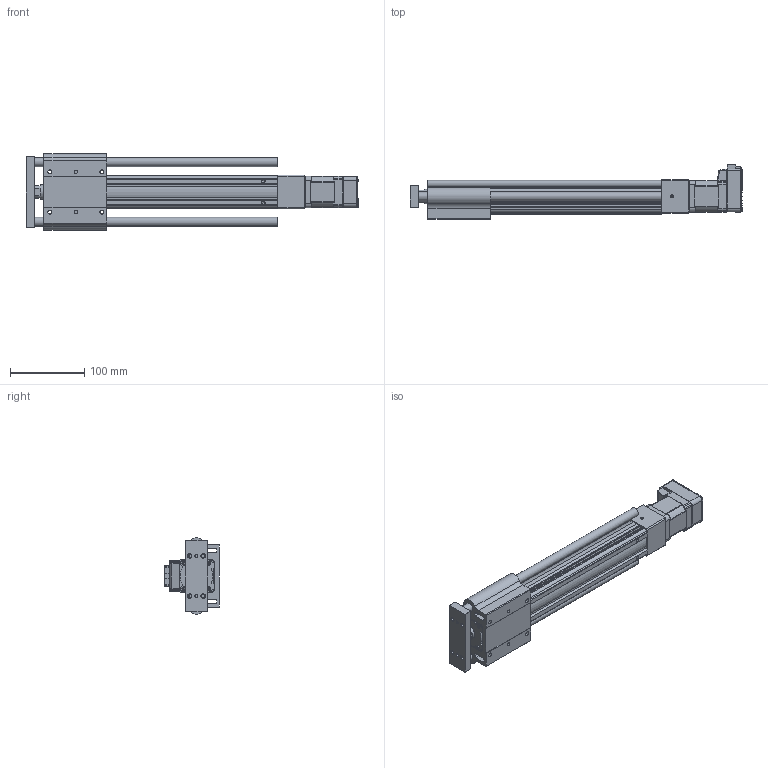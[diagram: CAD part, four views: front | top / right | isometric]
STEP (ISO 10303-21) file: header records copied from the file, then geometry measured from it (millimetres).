
FILE_DESCRIPTION (( 'STEP AP214' ), '1' );
FILE_NAME ('LEYG3(+)-25MDNM1□-200-17L.STEP', '2023-04-10T08:21:42', ( '' ), ( '' ), 'SwSTEP 2.0', 'SolidWorks 2019', '' );
FILE_SCHEMA (( 'AUTOMOTIVE_DESIGN' ));
Length unit declared in the file: millimetre
Products named in the file (6): LEYG3(+)-25MDNM1□-200-17L; LEYG3(+)-25MNM1?_ROD_200; LEYG3(+)-25MNM1□_ATTACH_200; LEYG3(+)-25□DNM1_MOTOR Flange; CM3(+)-17L50A; LEYG3(+)-25NM1?_BODY_200
Assembly tree (5 placements, depth 2):
  LEYG3(+)-25MDNM1□-200-17L
    LEYG3(+)-25NM1?_BODY_200
    LEYG3(+)-25MNM1?_ROD_200
    LEYG3(+)-25MNM1□_ATTACH_200
    LEYG3(+)-25□DNM1_MOTOR Flange
    CM3(+)-17L50A
Bounding box: 445.8 x 73.55 x 103 mm (x, y, z)
Volume: 975294.8 mm3; surface area: 219669.2 mm2
Topology: 5 solids, 5 shells, 936 faces, 2384 edges, 1501 vertices
Faces by surface type: plane 499, cylinder 272, cone 86, bspline 29, torus 29, sphere 21
Full cylindrical faces by diameter (mm): 2.5 x4, 3.5 x4, 4 x2, 4.2 x2, 4.9 x4, 5 x1, 5.4 x4, 8 x1, 11 x1, 12 x2, 22 x1, 33 x1
Entity records: 37841 total; most frequent: CARTESIAN_POINT 6834, ORIENTED_EDGE 4612, DIRECTION 4473, EDGE_CURVE 2306, AXIS2_PLACEMENT_3D 1494, VERTEX_POINT 1490, VECTOR 1485, LINE 1485
